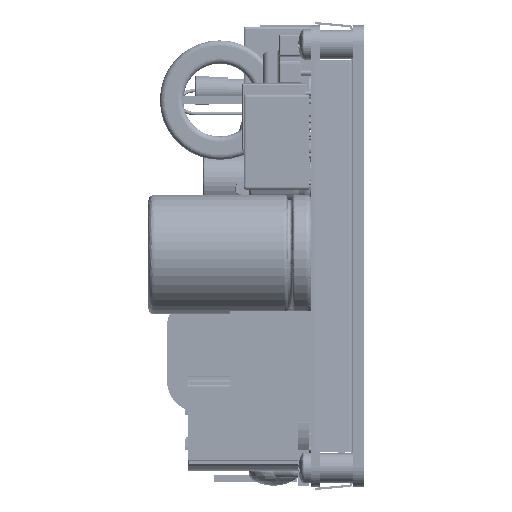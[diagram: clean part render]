
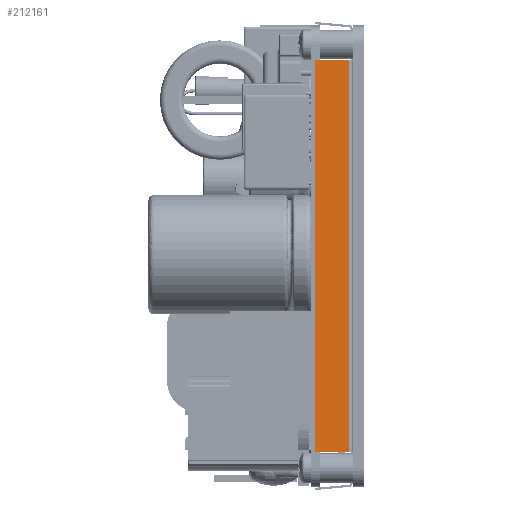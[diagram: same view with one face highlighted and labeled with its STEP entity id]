
A CAD part, left-side view. The second image highlights one B-rep face of the part: STEP entity #212161.
In plain terms, the highlighted planar face has unit normal (-0.996, -0.087, 0).
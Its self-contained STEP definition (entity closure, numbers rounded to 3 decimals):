
#8427 = VECTOR ( 'NONE', #217155, 1000. ) ;
#8488 = DIRECTION ( 'NONE',  ( -0.087, 0.996, 0. ) ) ;
#12431 = ORIENTED_EDGE ( 'NONE', *, *, #292073, .F. ) ;
#22660 = ORIENTED_EDGE ( 'NONE', *, *, #290138, .T. ) ;
#29616 = LINE ( 'NONE', #73989, #259487 ) ;
#34912 = PLANE ( 'NONE',  #150430 ) ;
#46122 = EDGE_CURVE ( 'NONE', #56037, #165084, #230635, .T. ) ;
#49123 = DIRECTION ( 'NONE',  ( 0., 0., -1. ) ) ;
#56037 = VERTEX_POINT ( 'NONE', #59823 ) ;
#59823 = CARTESIAN_POINT ( 'NONE',  ( -0.575, 6.923, 4.256 ) ) ;
#73989 = CARTESIAN_POINT ( 'NONE',  ( 0.033, -0.032, 4.256 ) ) ;
#82026 = VERTEX_POINT ( 'NONE', #112050 ) ;
#99505 = VERTEX_POINT ( 'NONE', #328545 ) ;
#104910 = EDGE_CURVE ( 'NONE', #165084, #82026, #121489, .T. ) ;
#112050 = CARTESIAN_POINT ( 'NONE',  ( -0.025, 0.635, -67.744 ) ) ;
#121489 = LINE ( 'NONE', #366653, #8427 ) ;
#126752 = DIRECTION ( 'NONE',  ( 0.996, 0.087, 0. ) ) ;
#133235 = DIRECTION ( 'NONE',  ( -0.087, 0.996, 0. ) ) ;
#150430 = AXIS2_PLACEMENT_3D ( 'NONE', #217555, #126752, #8488 ) ;
#154354 = ORIENTED_EDGE ( 'NONE', *, *, #46122, .T. ) ;
#165084 = VERTEX_POINT ( 'NONE', #322919 ) ;
#171564 = CARTESIAN_POINT ( 'NONE',  ( -0.575, 6.923, 0. ) ) ;
#212161 = ADVANCED_FACE ( 'NONE', ( #273815 ), #34912, .F. ) ;
#217155 = DIRECTION ( 'NONE',  ( 0.087, -0.996, 0. ) ) ;
#217555 = CARTESIAN_POINT ( 'NONE',  ( 0.033, -0.032, 0. ) ) ;
#229298 = CARTESIAN_POINT ( 'NONE',  ( -0.025, 0.635, -67.744 ) ) ;
#229465 = DIRECTION ( 'NONE',  ( 0., 0., -1. ) ) ;
#230635 = LINE ( 'NONE', #171564, #296394 ) ;
#233051 = VECTOR ( 'NONE', #49123, 1000. ) ;
#259487 = VECTOR ( 'NONE', #133235, 1000. ) ;
#273815 = FACE_OUTER_BOUND ( 'NONE', #335728, .T. ) ;
#290138 = EDGE_CURVE ( 'NONE', #99505, #56037, #29616, .T. ) ;
#292073 = EDGE_CURVE ( 'NONE', #99505, #82026, #312778, .T. ) ;
#296394 = VECTOR ( 'NONE', #229465, 1000. ) ;
#312778 = LINE ( 'NONE', #229298, #233051 ) ;
#322919 = CARTESIAN_POINT ( 'NONE',  ( -0.575, 6.923, -67.744 ) ) ;
#328545 = CARTESIAN_POINT ( 'NONE',  ( -0.025, 0.635, 4.256 ) ) ;
#335728 = EDGE_LOOP ( 'NONE', ( #12431, #22660, #154354, #383558 ) ) ;
#366653 = CARTESIAN_POINT ( 'NONE',  ( 0.033, -0.032, -67.744 ) ) ;
#383558 = ORIENTED_EDGE ( 'NONE', *, *, #104910, .T. ) ;
